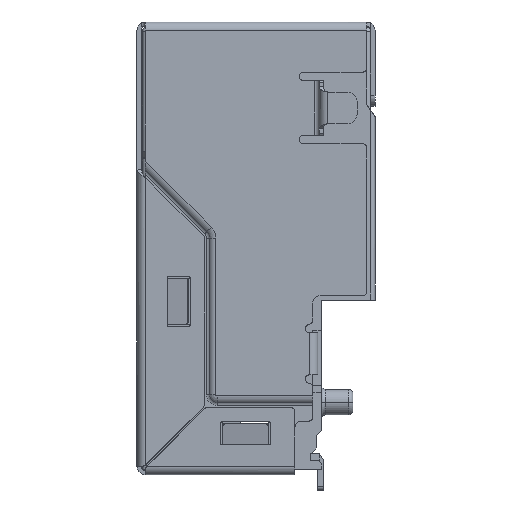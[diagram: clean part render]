
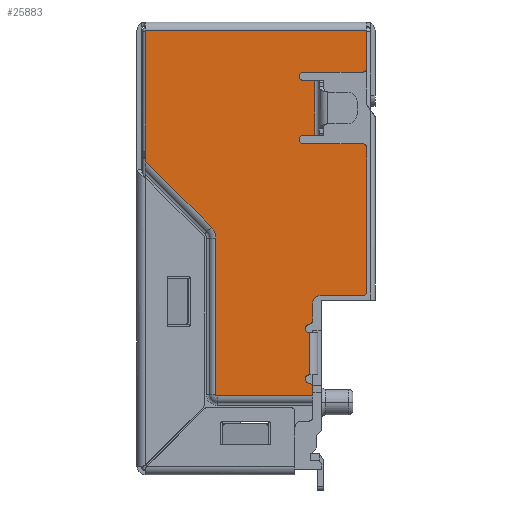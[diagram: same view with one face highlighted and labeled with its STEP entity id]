
A CAD part, left-side view. The second image highlights one B-rep face of the part: STEP entity #25883.
In plain terms, the highlighted planar face has unit normal (-1, 0, 0).
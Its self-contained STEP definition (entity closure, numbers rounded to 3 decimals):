
#1670=CARTESIAN_POINT('',(-7.75,0.6,-1.93));
#1671=DIRECTION('',(1.,0.,0.));
#1672=DIRECTION('',(0.,-1.,0.));
#1673=AXIS2_PLACEMENT_3D('',#1670,#1671,#1672);
#1675=DIRECTION('',(0.,1.,0.));
#1676=VECTOR('',#1675,2.8);
#1677=CARTESIAN_POINT('',(-7.75,0.6,-2.13));
#1678=LINE('',#1677,#1676);
#1679=CARTESIAN_POINT('',(-7.75,3.4,-2.33));
#1680=DIRECTION('',(-1.,0.,0.));
#1681=DIRECTION('',(0.,0.,1.));
#1682=AXIS2_PLACEMENT_3D('',#1679,#1680,#1681);
#1684=DIRECTION('',(0.,-1.,0.));
#1685=VECTOR('',#1684,0.55);
#1686=CARTESIAN_POINT('',(-7.75,3.4,-2.53));
#1687=LINE('',#1686,#1685);
#1688=CARTESIAN_POINT('',(-7.75,3.4,-5.33));
#1689=DIRECTION('',(-1.,0.,0.));
#1690=DIRECTION('',(0.,0.,1.));
#1691=AXIS2_PLACEMENT_3D('',#1688,#1689,#1690);
#1693=CARTESIAN_POINT('',(-7.75,0.6,-5.73));
#1694=DIRECTION('',(1.,0.,0.));
#1695=DIRECTION('',(0.,0.,1.));
#1696=AXIS2_PLACEMENT_3D('',#1693,#1694,#1695);
#1698=CARTESIAN_POINT('',(-7.75,0.6,-12.55));
#1699=DIRECTION('',(1.,0.,0.));
#1700=DIRECTION('',(0.,-1.,0.));
#1701=AXIS2_PLACEMENT_3D('',#1698,#1699,#1700);
#1703=CARTESIAN_POINT('',(-7.75,2.61,-13.1));
#1704=DIRECTION('',(-1.,0.,0.));
#1705=DIRECTION('',(0.,0.,1.));
#1706=AXIS2_PLACEMENT_3D('',#1703,#1704,#1705);
#1708=CARTESIAN_POINT('',(-7.75,3.16,-13.907));
#1709=DIRECTION('',(1.,0.,0.));
#1710=DIRECTION('',(0.,-1.,0.));
#1711=AXIS2_PLACEMENT_3D('',#1708,#1709,#1710);
#1713=CARTESIAN_POINT('',(-7.75,3.11,-14.304));
#1714=DIRECTION('',(-1.,0.,0.));
#1715=DIRECTION('',(0.,0.125,0.992));
#1716=AXIS2_PLACEMENT_3D('',#1713,#1714,#1715);
#1718=CARTESIAN_POINT('',(-7.75,3.11,-16.704));
#1719=DIRECTION('',(-1.,0.,0.));
#1720=DIRECTION('',(0.,0.,1.));
#1721=AXIS2_PLACEMENT_3D('',#1718,#1719,#1720);
#1723=CARTESIAN_POINT('',(-7.75,3.16,-17.1));
#1724=DIRECTION('',(1.,0.,0.));
#1725=DIRECTION('',(0.,-0.125,0.992));
#1726=AXIS2_PLACEMENT_3D('',#1723,#1724,#1725);
#1728=DIRECTION('',(0.,0.,-1.));
#1729=VECTOR('',#1728,0.403);
#1730=CARTESIAN_POINT('',(-7.75,2.96,-17.1));
#1731=LINE('',#1730,#1729);
#1732=CARTESIAN_POINT('',(-7.75,7.5,-17.45));
#1733=DIRECTION('',(1.,0.,0.));
#1734=DIRECTION('',(0.,0.,-1.));
#1735=AXIS2_PLACEMENT_3D('',#1732,#1733,#1734);
#1737=CARTESIAN_POINT('',(-7.75,8.3,-10.016));
#1738=DIRECTION('',(-1.,0.,0.));
#1739=DIRECTION('',(0.,-1.,0.));
#1740=AXIS2_PLACEMENT_3D('',#1737,#1738,#1739);
#1742=DIRECTION('',(0.,0.707,0.707));
#1743=VECTOR('',#1742,4.423);
#1744=CARTESIAN_POINT('',(-7.75,7.772,-9.488));
#1745=LINE('',#1744,#1743);
#1750=DIRECTION('',(0.,0.,1.));
#1751=VECTOR('',#1750,1.78);
#1752=CARTESIAN_POINT('',(-7.75,0.4,-1.93));
#1753=LINE('',#1752,#1751);
#1856=DIRECTION('',(0.,0.,1.));
#1857=VECTOR('',#1856,6.82);
#1858=CARTESIAN_POINT('',(-7.75,0.4,-12.55));
#1859=LINE('',#1858,#1857);
#1872=DIRECTION('',(0.,1.,0.));
#1873=VECTOR('',#1872,2.8);
#1874=CARTESIAN_POINT('',(-7.75,0.6,-5.53));
#1875=LINE('',#1874,#1873);
#1893=DIRECTION('',(0.,-1.,0.));
#1894=VECTOR('',#1893,0.55);
#1895=CARTESIAN_POINT('',(-7.75,3.4,-5.13));
#1896=LINE('',#1895,#1894);
#2181=DIRECTION('',(0.,0.,1.));
#2182=VECTOR('',#2181,2.6);
#2183=CARTESIAN_POINT('',(-7.75,2.85,-5.13));
#2184=LINE('',#2183,#2182);
#2197=DIRECTION('',(0.,-1.,0.));
#2198=VECTOR('',#2197,2.01);
#2199=CARTESIAN_POINT('',(-7.75,2.61,-12.75));
#2200=LINE('',#2199,#2198);
#2213=DIRECTION('',(0.,0.,1.));
#2214=VECTOR('',#2213,0.807);
#2215=CARTESIAN_POINT('',(-7.75,2.96,-13.907));
#2216=LINE('',#2215,#2214);
#7700=DIRECTION('',(0.,1.,0.));
#7701=VECTOR('',#7700,10.5);
#7702=CARTESIAN_POINT('',(-7.75,0.4,-0.15));
#7703=LINE('',#7702,#7701);
#7708=DIRECTION('',(0.,0.,-1.));
#7709=VECTOR('',#7708,6.21);
#7710=CARTESIAN_POINT('',(-7.75,10.9,-0.15));
#7711=LINE('',#7710,#7709);
#15777=DIRECTION('',(0.,0.,-1.));
#15778=VECTOR('',#15777,7.434);
#15779=CARTESIAN_POINT('',(-7.75,7.554,-10.016));
#15780=LINE('',#15779,#15778);
#15804=DIRECTION('',(0.,-1.,0.));
#15805=VECTOR('',#15804,4.54);
#15806=CARTESIAN_POINT('',(-7.75,7.5,-17.504));
#15807=LINE('',#15806,#15805);
#15812=DIRECTION('',(0.,0.,1.));
#15813=VECTOR('',#15812,2.);
#15814=CARTESIAN_POINT('',(-7.75,3.11,-16.504));
#15815=LINE('',#15814,#15813);
#19160=CARTESIAN_POINT('',(-7.75,7.772,-9.488));
#19161=CARTESIAN_POINT('',(-7.75,10.9,
-6.36));
#19162=VERTEX_POINT('',#19160);
#19163=VERTEX_POINT('',#19161);
#19164=CARTESIAN_POINT('',(-7.75,0.4,-1.93));
#19165=CARTESIAN_POINT('',(-7.75,0.4,-0.15));
#19166=VERTEX_POINT('',#19164);
#19167=VERTEX_POINT('',#19165);
#19168=CARTESIAN_POINT('',(-7.75,0.6,-2.13));
#19169=VERTEX_POINT('',#19168);
#19170=CARTESIAN_POINT('',(-7.75,3.4,-2.13));
#19171=VERTEX_POINT('',#19170);
#19172=CARTESIAN_POINT('',(-7.75,3.4,-2.53));
#19173=VERTEX_POINT('',#19172);
#19174=CARTESIAN_POINT('',(-7.75,2.85,-2.53));
#19175=VERTEX_POINT('',#19174);
#19176=CARTESIAN_POINT('',(-7.75,2.85,-5.13));
#19177=VERTEX_POINT('',#19176);
#19178=CARTESIAN_POINT('',(-7.75,3.4,-5.13));
#19179=VERTEX_POINT('',#19178);
#19180=CARTESIAN_POINT('',(-7.75,3.4,-5.53));
#19181=VERTEX_POINT('',#19180);
#19182=CARTESIAN_POINT('',(-7.75,0.6,-5.53));
#19183=VERTEX_POINT('',#19182);
#19184=CARTESIAN_POINT('',(-7.75,0.4,-5.73));
#19185=VERTEX_POINT('',#19184);
#19186=CARTESIAN_POINT('',(-7.75,0.4,-12.55));
#19187=VERTEX_POINT('',#19186);
#19188=CARTESIAN_POINT('',(-7.75,0.6,-12.75));
#19189=VERTEX_POINT('',#19188);
#19190=CARTESIAN_POINT('',(-7.75,2.61,-12.75));
#19191=VERTEX_POINT('',#19190);
#19192=CARTESIAN_POINT('',(-7.75,2.96,-13.1));
#19193=VERTEX_POINT('',#19192);
#19194=CARTESIAN_POINT('',(-7.75,2.96,-13.907));
#19195=VERTEX_POINT('',#19194);
#19196=CARTESIAN_POINT('',(-7.75,3.135,-14.105));
#19197=VERTEX_POINT('',#19196);
#19198=CARTESIAN_POINT('',(-7.75,3.11,-14.504));
#19199=VERTEX_POINT('',#19198);
#19200=CARTESIAN_POINT('',(-7.75,3.11,-16.504));
#19201=VERTEX_POINT('',#19200);
#19202=CARTESIAN_POINT('',(-7.75,3.135,-16.902));
#19203=VERTEX_POINT('',#19202);
#19204=CARTESIAN_POINT('',(-7.75,2.96,-17.1));
#19205=VERTEX_POINT('',#19204);
#19206=CARTESIAN_POINT('',(-7.75,2.96,-17.504));
#19207=VERTEX_POINT('',#19206);
#19208=CARTESIAN_POINT('',(-7.75,7.5,-17.504));
#19209=VERTEX_POINT('',#19208);
#19210=CARTESIAN_POINT('',(-7.75,7.554,
-17.45));
#19211=VERTEX_POINT('',#19210);
#19212=CARTESIAN_POINT('',(-7.75,7.554,-10.016));
#19213=VERTEX_POINT('',#19212);
#19214=CARTESIAN_POINT('',(-7.75,10.9,-0.15));
#19215=VERTEX_POINT('',#19214);
#25821=CARTESIAN_POINT('',(-7.75,5.65,-8.827));
#25822=DIRECTION('',(1.,0.,0.));
#25823=DIRECTION('',(0.,1.,0.));
#25824=AXIS2_PLACEMENT_3D('',#25821,#25822,#25823);
#25825=PLANE('',#25824);
#25827=ORIENTED_EDGE('',*,*,#25826,.F.);
#25829=ORIENTED_EDGE('',*,*,#25828,.T.);
#25831=ORIENTED_EDGE('',*,*,#25830,.T.);
#25833=ORIENTED_EDGE('',*,*,#25832,.T.);
#25835=ORIENTED_EDGE('',*,*,#25834,.T.);
#25837=ORIENTED_EDGE('',*,*,#25836,.F.);
#25839=ORIENTED_EDGE('',*,*,#25838,.F.);
#25841=ORIENTED_EDGE('',*,*,#25840,.T.);
#25843=ORIENTED_EDGE('',*,*,#25842,.F.);
#25845=ORIENTED_EDGE('',*,*,#25844,.T.);
#25847=ORIENTED_EDGE('',*,*,#25846,.F.);
#25849=ORIENTED_EDGE('',*,*,#25848,.T.);
#25851=ORIENTED_EDGE('',*,*,#25850,.F.);
#25853=ORIENTED_EDGE('',*,*,#25852,.T.);
#25855=ORIENTED_EDGE('',*,*,#25854,.F.);
#25857=ORIENTED_EDGE('',*,*,#25856,.T.);
#25859=ORIENTED_EDGE('',*,*,#25858,.T.);
#25861=ORIENTED_EDGE('',*,*,#25860,.F.);
#25863=ORIENTED_EDGE('',*,*,#25862,.T.);
#25865=ORIENTED_EDGE('',*,*,#25864,.T.);
#25867=ORIENTED_EDGE('',*,*,#25866,.T.);
#25869=ORIENTED_EDGE('',*,*,#25868,.F.);
#25871=ORIENTED_EDGE('',*,*,#25870,.T.);
#25873=ORIENTED_EDGE('',*,*,#25872,.F.);
#25875=ORIENTED_EDGE('',*,*,#25874,.T.);
#25876=ORIENTED_EDGE('',*,*,#25811,.T.);
#25878=ORIENTED_EDGE('',*,*,#25877,.F.);
#25880=ORIENTED_EDGE('',*,*,#25879,.F.);
#25881=EDGE_LOOP('',(#25827,#25829,#25831,#25833,#25835,#25837,#25839,#25841,
#25843,#25845,#25847,#25849,#25851,#25853,#25855,#25857,#25859,#25861,#25863,
#25865,#25867,#25869,#25871,#25873,#25875,#25876,#25878,#25880));
#25882=FACE_OUTER_BOUND('',#25881,.F.);
#25883=ADVANCED_FACE('',(#25882),#25825,.F.);
#1674=CIRCLE('',#1673,0.2);
#1683=CIRCLE('',#1682,0.2);
#1692=CIRCLE('',#1691,0.2);
#1697=CIRCLE('',#1696,0.2);
#1702=CIRCLE('',#1701,0.2);
#1707=CIRCLE('',#1706,0.35);
#1712=CIRCLE('',#1711,0.2);
#1717=CIRCLE('',#1716,0.2);
#1722=CIRCLE('',#1721,0.2);
#1727=CIRCLE('',#1726,0.2);
#1736=CIRCLE('',#1735,0.054);
#1741=CIRCLE('',#1740,0.746);
#25811=EDGE_CURVE('',#19162,#19163,#1745,.T.);
#25826=EDGE_CURVE('',#19166,#19167,#1753,.T.);
#25828=EDGE_CURVE('',#19166,#19169,#1674,.T.);
#25830=EDGE_CURVE('',#19169,#19171,#1678,.T.);
#25832=EDGE_CURVE('',#19171,#19173,#1683,.T.);
#25834=EDGE_CURVE('',#19173,#19175,#1687,.T.);
#25836=EDGE_CURVE('',#19177,#19175,#2184,.T.);
#25838=EDGE_CURVE('',#19179,#19177,#1896,.T.);
#25840=EDGE_CURVE('',#19179,#19181,#1692,.T.);
#25842=EDGE_CURVE('',#19183,#19181,#1875,.T.);
#25844=EDGE_CURVE('',#19183,#19185,#1697,.T.);
#25846=EDGE_CURVE('',#19187,#19185,#1859,.T.);
#25848=EDGE_CURVE('',#19187,#19189,#1702,.T.);
#25850=EDGE_CURVE('',#19191,#19189,#2200,.T.);
#25852=EDGE_CURVE('',#19191,#19193,#1707,.T.);
#25854=EDGE_CURVE('',#19195,#19193,#2216,.T.);
#25856=EDGE_CURVE('',#19195,#19197,#1712,.T.);
#25858=EDGE_CURVE('',#19197,#19199,#1717,.T.);
#25860=EDGE_CURVE('',#19201,#19199,#15815,.T.);
#25862=EDGE_CURVE('',#19201,#19203,#1722,.T.);
#25864=EDGE_CURVE('',#19203,#19205,#1727,.T.);
#25866=EDGE_CURVE('',#19205,#19207,#1731,.T.);
#25868=EDGE_CURVE('',#19209,#19207,#15807,.T.);
#25870=EDGE_CURVE('',#19209,#19211,#1736,.T.);
#25872=EDGE_CURVE('',#19213,#19211,#15780,.T.);
#25874=EDGE_CURVE('',#19213,#19162,#1741,.T.);
#25877=EDGE_CURVE('',#19215,#19163,#7711,.T.);
#25879=EDGE_CURVE('',#19167,#19215,#7703,.T.);
